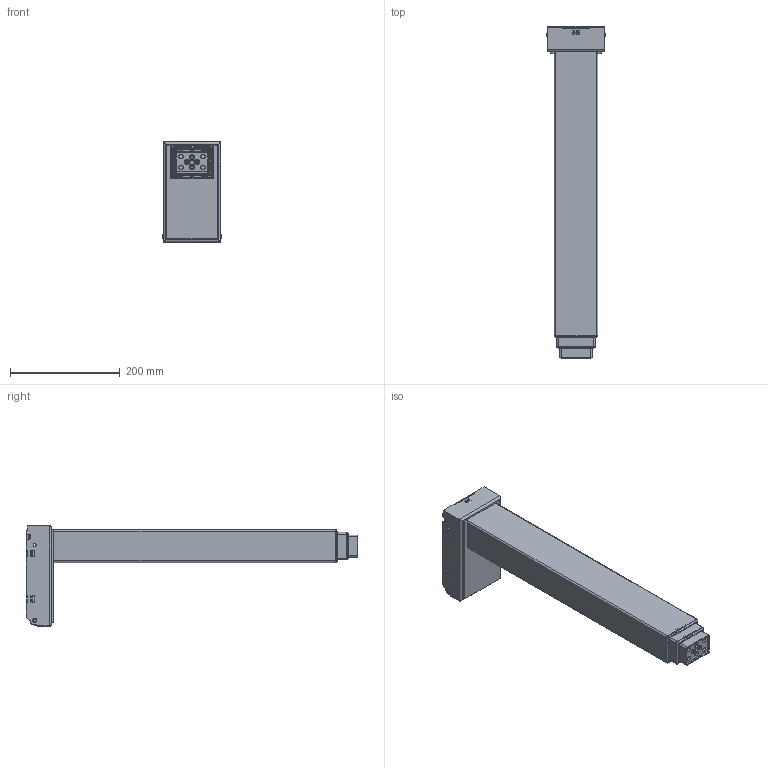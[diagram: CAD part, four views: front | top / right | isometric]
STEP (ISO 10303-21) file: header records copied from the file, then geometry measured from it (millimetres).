
FILE_DESCRIPTION (( 'STEP AP203' ), '1' );
FILE_NAME ('3D_TL12.STEP', '2020-05-11T03:37:26', ( '' ), ( '' ), 'SwSTEP 2.0', 'SolidWorks 2015', '' );
FILE_SCHEMA (( 'CONFIG_CONTROL_DESIGN' ));
Length unit declared in the file: millimetre
Products named in the file (1): 3D_TL12
Bounding box: 107 x 605.69 x 183 mm (x, y, z)
Volume: 964773 mm3; surface area: 851473.8 mm2
Topology: 8 solids, 8 shells, 1558 faces, 4001 edges, 2373 vertices
Faces by surface type: cylinder 704, plane 508, torus 122, bspline 103, sphere 93, cone 28
Entity records: 51685 total; most frequent: CARTESIAN_POINT 14744, DIRECTION 7844, ORIENTED_EDGE 7816, EDGE_CURVE 3908, AXIS2_PLACEMENT_3D 2881, VERTEX_POINT 2373, VECTOR 2082, LINE 2082
